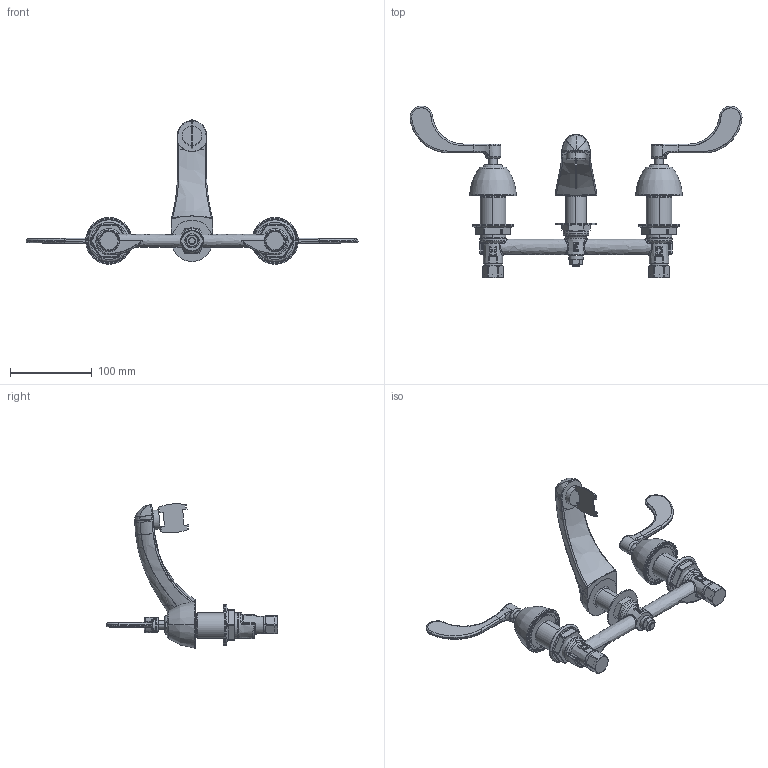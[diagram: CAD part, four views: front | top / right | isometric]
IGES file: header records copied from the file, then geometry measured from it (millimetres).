
Start section:  PTC IGES file: 404-v317_sw0001.igs
Global section: file name: 404-v317_sw0001.igs; native system: Pro/ENGINEER by Parametric Technology Corporation; preprocessor: 2010230; author: jrodriguez; organization: Unknown; date: 20110513.170458; units: inch
Bounding box: 406.4 x 210.12 x 176.77 mm (x, y, z)
Surface area: 124124.4 mm2 (no closed solid volume)
Topology: 0 solids, 0 shells, 734 faces, 5168 edges, 6917 vertices
Faces by surface type: revolution 377, bspline 357
